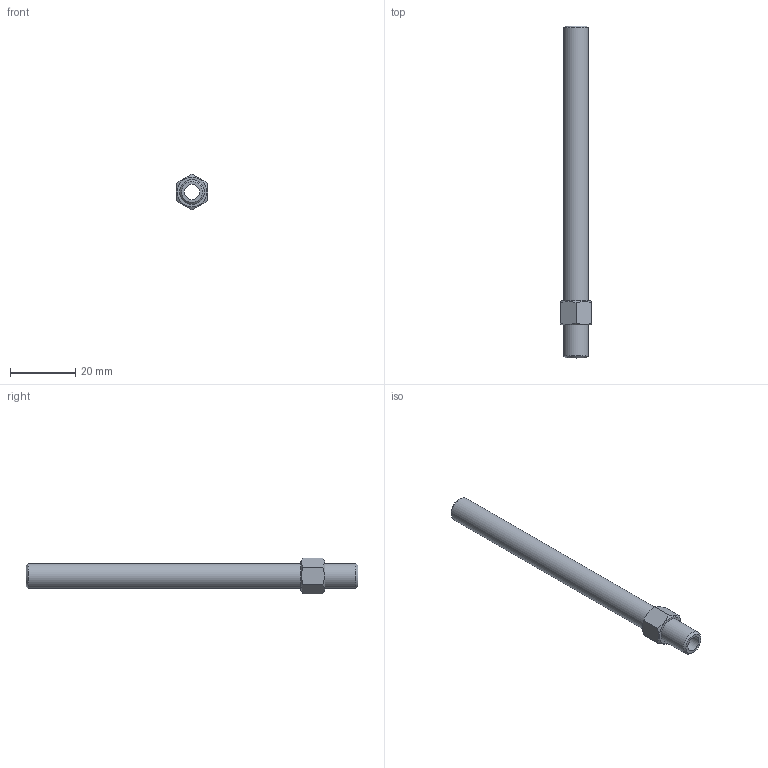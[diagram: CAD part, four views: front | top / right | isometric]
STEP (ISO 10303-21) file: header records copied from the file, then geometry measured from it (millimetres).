
FILE_DESCRIPTION(/* description */ (''),/* implementation_level */ '2;1');
FILE_NAME(/* name */ 'C:/Users/drich/Desktop/APN16-4 v1.step',/* time_stamp */ '2019-12-27T17:49:14-06:00',/* author */ (''),/* organization */ (''),/* preprocessor_version */ 'ST-DEVELOPER v18',/* originating_system */ 'Autodesk Translation Framework v8.12.0.6',/* authorisation */ '');
FILE_SCHEMA (('AUTOMOTIVE_DESIGN { 1 0 10303 214 3 1 1 }'));
Length unit declared in the file: inch
Products named in the file (1): APN16-4
Bounding box: 9.5 x 101.6 x 10.97 mm (x, y, z)
Volume: 3071.3 mm3; surface area: 4092.4 mm2
Topology: 1 solids, 1 shells, 17 faces, 39 edges, 26 vertices
Faces by surface type: plane 10, cone 4, cylinder 3
Full cylindrical faces by diameter (mm): 4.724 x1, 7.616 x2
Entity records: 521 total; most frequent: CARTESIAN_POINT 107, ORIENTED_EDGE 78, DIRECTION 77, EDGE_CURVE 39, AXIS2_PLACEMENT_3D 32, VERTEX_POINT 26, EDGE_LOOP 21, FACE_OUTER_BOUND 17
